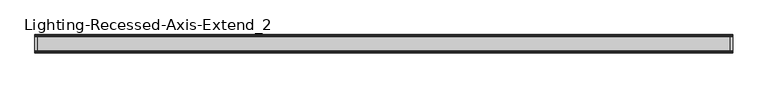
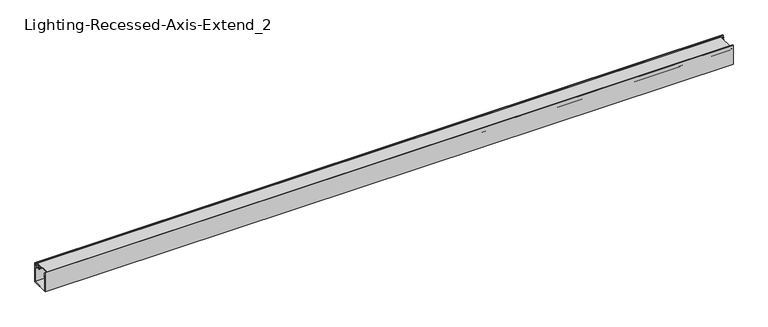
"""IFC4 building model written with IfcOpenShell, lengths in millimetres: light fixture geometry, Lighting-Recessed-Axis-Extend_2 : EX2R-900-80-35-SO-4."""

from ifc_helpers import new_model, si_unit, point, frame, frame_2d, origin, place, context, project, spatial, polyline, circle_curve, trimmed, segment, composite_curve, outline, extrude, source, transform, mapped, element, save


def lighting_recessed_axis_extend_2_38db9704(model_context):
    return source(origin(), model_context, "Body", "SweptSolid", [
        extrude(outline(composite_curve([segment(polyline([(-24.1727262, -4.8895009), (-24.5114181, -11.3521263)]), True, "CONTINUOUS"), segment(trimmed(circle_curve(frame_2d((-27.2542, -14.351)), 4.064), [point((-24.5114181, -11.3521263))], [point((-25.3818814, -17.9580097))], False, "CARTESIAN"), True, "CONTINUOUS"), segment(trimmed(circle_curve(frame_2d((-22.149344, -17.1691543)), 3.3274001), [point((-25.3818814, -17.9580097))], [point((-24.5665956, -19.4557425))], True, "CARTESIAN"), True, "CONTINUOUS"), segment(trimmed(circle_curve(frame_2d((-17.1303177, -12.4214292)), 10.2362001), [point((-24.5665956, -19.4557425))], [point((-23.2119066, -20.6551445))], True, "CARTESIAN"), True, "CONTINUOUS"), segment(trimmed(circle_curve(frame_2d((-23.7023573, -21.3191538)), 0.8255), [point((-23.2119066, -20.6551445))], [point((-24.192808, -21.9831631))], False, "CARTESIAN"), True, "CONTINUOUS"), segment(trimmed(circle_curve(frame_2d((-17.1303169, -12.4214283)), 11.8872013), [point((-24.192808, -21.9831631))], [point((-25.7659952, -20.5903092))], False, "CARTESIAN"), True, "CONTINUOUS"), segment(trimmed(circle_curve(frame_2d((-22.149344, -17.1691543)), 4.9784001), [point((-25.7659952, -20.5903092))], [point((-27.1108807, -16.75974))], False, "CARTESIAN"), True, "CONTINUOUS"), segment(trimmed(circle_curve(frame_2d((-27.2542, -14.351)), 2.413), [point((-27.1108807, -16.75974))], [point((-25.4753941, -12.7205342))], True, "CARTESIAN"), True, "CONTINUOUS"), segment(trimmed(circle_curve(frame_2d((-23.6029669, -11.0042544)), 2.54), [point((-25.4753941, -12.7205342))], [point((-26.1394859, -10.8713211))], False, "CARTESIAN"), True, "CONTINUOUS"), segment(polyline([(-26.1394859, -10.8713211), (-25.825992, -4.8895009), (-28.829, -4.8895009), (-28.829, -2.9845), (28.829, -2.9845), (28.829, -4.8895009), (25.825992, -4.8895009), (26.1394859, -10.8713211)]), True, "CONTINUOUS"), segment(trimmed(circle_curve(frame_2d((23.6029669, -11.0042544)), 2.54), [point((26.1394859, -10.8713211))], [point((25.4753941, -12.7205342))], False, "CARTESIAN"), True, "CONTINUOUS"), segment(trimmed(circle_curve(frame_2d((27.2542, -14.351)), 2.413), [point((25.4753941, -12.7205342))], [point((27.1108807, -16.75974))], True, "CARTESIAN"), True, "CONTINUOUS"), segment(trimmed(circle_curve(frame_2d((22.149344, -17.1691543)), 4.9784001), [point((27.1108807, -16.75974))], [point((25.7659952, -20.5903092))], False, "CARTESIAN"), True, "CONTINUOUS"), segment(trimmed(circle_curve(frame_2d((17.1303169, -12.4214283)), 11.8872013), [point((25.7659952, -20.5903092))], [point((24.192808, -21.9831631))], False, "CARTESIAN"), True, "CONTINUOUS"), segment(trimmed(circle_curve(frame_2d((23.7023573, -21.3191538)), 0.8255), [point((24.192808, -21.9831631))], [point((23.2119066, -20.6551445))], False, "CARTESIAN"), True, "CONTINUOUS"), segment(trimmed(circle_curve(frame_2d((17.1303177, -12.4214292)), 10.2362001), [point((23.2119066, -20.6551445))], [point((24.5665956, -19.4557425))], True, "CARTESIAN"), True, "CONTINUOUS"), segment(trimmed(circle_curve(frame_2d((22.149344, -17.1691543)), 3.3274001), [point((24.5665956, -19.4557425))], [point((25.3818814, -17.9580097))], True, "CARTESIAN"), True, "CONTINUOUS"), segment(trimmed(circle_curve(frame_2d((27.2542, -14.351)), 4.064), [point((25.3818814, -17.9580097))], [point((24.5114181, -11.3521263))], False, "CARTESIAN"), True, "CONTINUOUS"), segment(polyline([(24.5114181, -11.3521263), (24.1727262, -4.8895009), (-24.1727262, -4.8895009)]), True, "CONTINUOUS")], self_intersect=False)), frame((-1219.2, 0.0, 0.0), z_axis=(1.0, 0.0, 0.0), x_axis=(0.0, 1.0, 0.0)), (0.0, 0.0, 1.0), 2438.4),
        extrude(outline(composite_curve([segment(polyline([(-29.972, -14.9098), (-29.972, -69.4055), (29.972, -69.4055), (29.972, -14.9098), (28.1325797, -14.9098)]), True, "CONTINUOUS"), segment(trimmed(circle_curve(frame_2d((26.6262297, -14.9098)), 1.5063501), [point((28.1325797, -14.9098))], [point((25.8730546, -16.2143374))], False, "CARTESIAN"), True, "CONTINUOUS"), segment(trimmed(circle_curve(frame_2d((27.0642121, -14.1511921)), 2.382315), [point((25.8730546, -16.2143374))], [point((24.6896516, -13.9591318))], False, "CARTESIAN"), True, "CONTINUOUS"), segment(polyline([(24.6896516, -13.9591318), (28.067, -11.1252), (28.067, -12.8778), (29.972, -12.8778), (29.972, -6.35), (28.067, -6.35), (28.067, -7.874), (26.416, -7.7874748), (26.416, -5.08), (29.972, -5.08), (29.972, 0.0), (32.004, 0.0), (32.004, -71.4375), (-32.004, -71.4375), (-32.004, 0.0), (-29.972, 0.0), (-29.972, -5.08), (-26.416, -5.08), (-26.416, -7.7874748), (-28.067, -7.874), (-28.067, -6.35), (-29.972, -6.35), (-29.972, -12.8778), (-28.067, -12.8778), (-28.067, -11.1252), (-24.6896516, -13.9591318)]), True, "CONTINUOUS"), segment(trimmed(circle_curve(frame_2d((-27.0642121, -14.1511921)), 2.382315), [point((-24.6896516, -13.9591318))], [point((-25.8730546, -16.2143374))], False, "CARTESIAN"), True, "CONTINUOUS"), segment(trimmed(circle_curve(frame_2d((-26.6262297, -14.9098)), 1.5063501), [point((-25.8730546, -16.2143374))], [point((-28.1325797, -14.9098))], False, "CARTESIAN"), True, "CONTINUOUS"), segment(polyline([(-28.1325797, -14.9098), (-29.972, -14.9098)]), True, "CONTINUOUS")], self_intersect=False)), frame((-1228.3567, 0.0, 0.0), z_axis=(1.0, 0.0, 0.0), x_axis=(0.0, 1.0, 0.0)), (0.0, 0.0, 1.0), 2456.7134),
    ])


if __name__ == "__main__":
    model = new_model("IFC4")
    model_context = context("Model", 3, world=origin())
    ifc_project = project(units=[si_unit("LENGTHUNIT", "METRE", prefix="MILLI")], contexts=[model_context])
    site = spatial("IfcSite", under=ifc_project)
    building = spatial("IfcBuilding", under=site)
    placement = place(None, origin())
    lighting_recessed_axis_extend_2_shape = lighting_recessed_axis_extend_2_38db9704(model_context)
    element("IfcLightFixture", 1, ObjectType="Lighting-Recessed-Axis-Extend_2 : EX2R-900-80-35-SO-4", at=placement, inside=building, context=model_context, shape_type="MappedRepresentation", body=[
        mapped(lighting_recessed_axis_extend_2_shape, transform((0.0, 0.0, 0.0), x_axis=(1.0, 0.0, 0.0), y_axis=(0.0, 1.0, 0.0), z_axis=(0.0, 0.0, 1.0))),
    ])
    save(model, "model.ifc")
